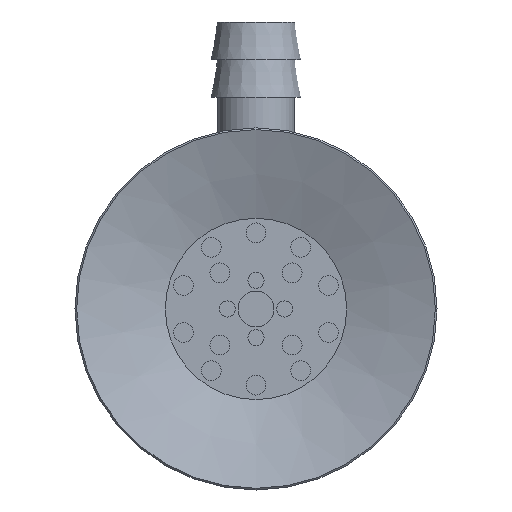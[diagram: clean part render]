
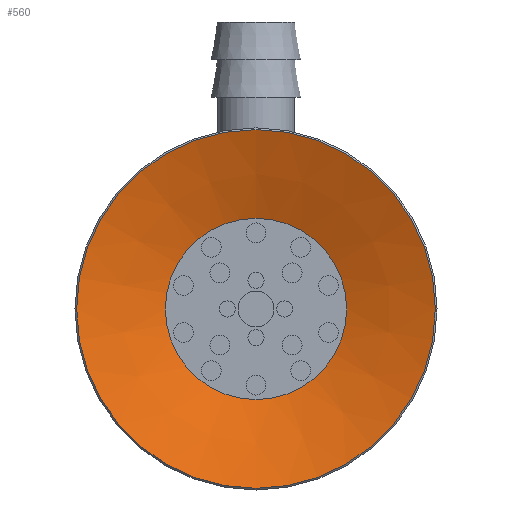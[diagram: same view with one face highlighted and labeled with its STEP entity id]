
A CAD part, front view. The second image highlights one B-rep face of the part: STEP entity #560.
In plain terms, the highlighted conical face has half-angle 70 degrees and reference radius 10 mm.
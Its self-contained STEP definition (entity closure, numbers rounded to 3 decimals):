
#560=ADVANCED_FACE('',(#876,#877),#878,.F.);
#876=FACE_BOUND('',#1301,.T.);
#877=FACE_OUTER_BOUND('',#1302,.T.);
#878=CONICAL_SURFACE('',#1303,10.0,1.222);
#1301=EDGE_LOOP('',(#2155));
#1302=EDGE_LOOP('',(#2156));
#1303=AXIS2_PLACEMENT_3D('',#2157,#2158,#2159);
#2155=ORIENTED_EDGE('',*,*,#2617,.T.);
#2156=ORIENTED_EDGE('',*,*,#2618,.F.);
#2157=CARTESIAN_POINT('',(0.0,0.,0.));
#2158=DIRECTION('',(0.0,0.,-1.0));
#2159=DIRECTION('',(0.0,1.0,0.));
#2617=EDGE_CURVE('',#2990,#2990,#2991,.T.);
#2618=EDGE_CURVE('',#2992,#2992,#2993,.T.);
#2990=VERTEX_POINT('',#3824);
#2991=CIRCLE('',#3825,5.055);
#2992=VERTEX_POINT('',#3826);
#2993=CIRCLE('',#3827,10.0);
#3824=CARTESIAN_POINT('',(0.0,-5.055,1.8));
#3825=AXIS2_PLACEMENT_3D('',#4217,#4218,#4219);
#3826=CARTESIAN_POINT('',(0.0,-10.0,0.));
#3827=AXIS2_PLACEMENT_3D('',#4220,#4221,#4222);
#4217=CARTESIAN_POINT('',(0.0,0.,1.8));
#4218=DIRECTION('',(0.0,0.,1.0));
#4219=DIRECTION('',(0.0,-1.0,0.));
#4220=CARTESIAN_POINT('',(0.0,0.,0.));
#4221=DIRECTION('',(0.0,0.,1.0));
#4222=DIRECTION('',(0.0,-1.0,0.));
